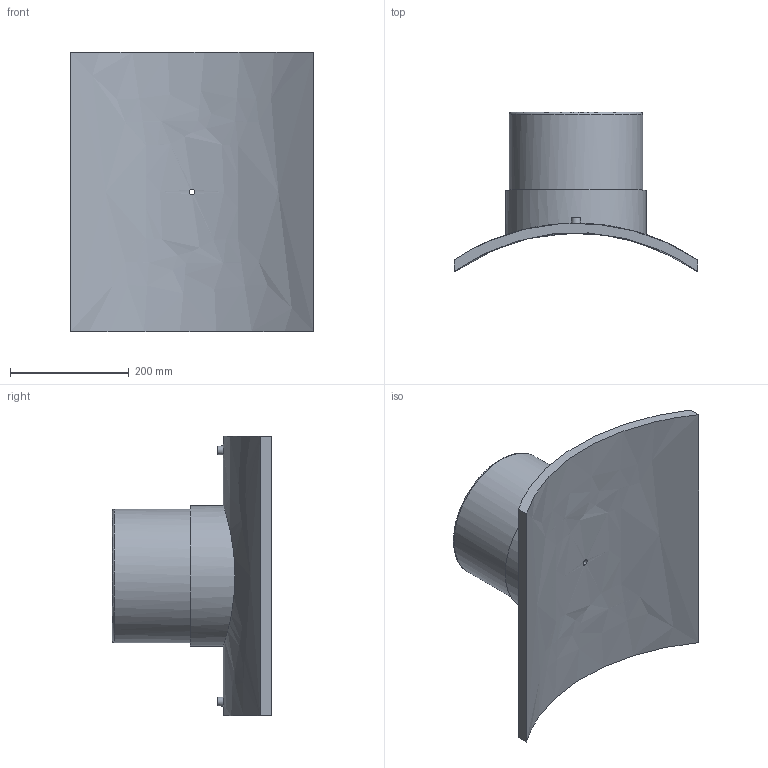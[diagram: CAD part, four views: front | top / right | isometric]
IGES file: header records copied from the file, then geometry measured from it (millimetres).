
Global section: file name: 495803710225T; native system: Autodesk Inventor 2019; preprocessor: unknown; author: KIM; date: 20240404.115450; units: millimetre
Bounding box: 410 x 268.17 x 470 mm (x, y, z)
Volume: 6329478.1 mm3; surface area: 699406 mm2
Topology: 1 solids, 1 shells, 29 faces, 60 edges, 43 vertices
Faces by surface type: bspline 29
